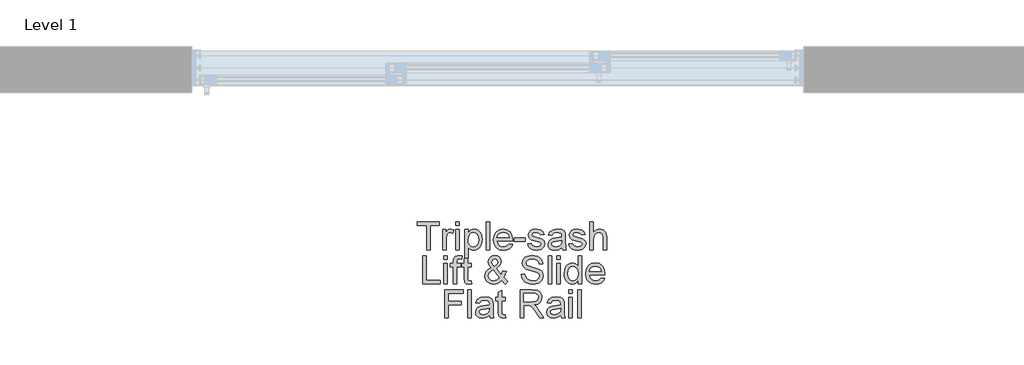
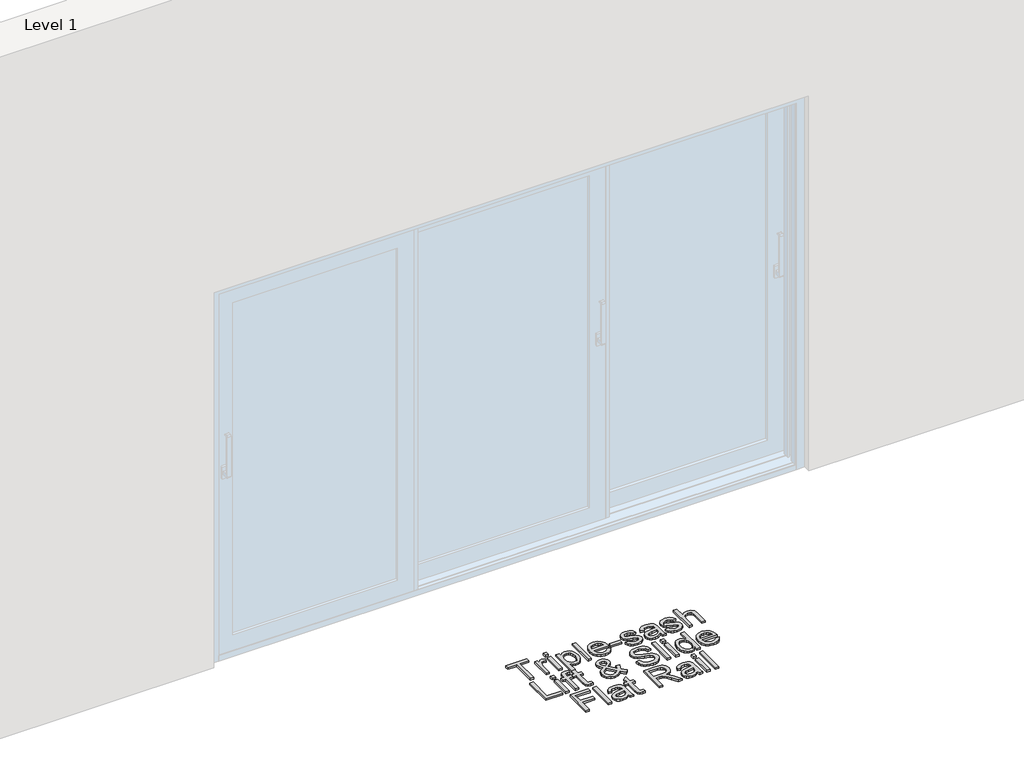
# One storey, part 8 of 11: 1 proxy.
"""IFC4 building model written with IfcOpenShell, lengths in millimetres."""

from ifc_helpers import new_model, si_unit, origin, origin_with_axes, place, context, project, spatial, polyline, outline, extrude, element, save

model = new_model("IFC4")

# Units and contexts
model_context = context("Model", 3, world=origin())
ifc_project = project(units=[si_unit("LENGTHUNIT", "METRE", prefix="MILLI")], contexts=[model_context])

# Site, building, storey
site = spatial("IfcSite", under=ifc_project)
building = spatial("IfcBuilding", under=site)
storey = spatial("IfcBuildingStorey", under=building, Name="Level 1", Elevation=0.0)

# Proxy
placement = place(None, origin())
element("IfcBuildingElementProxy", 1, Name="150mm Arial", ObjectType="150mm Arial", at=placement, inside=storey, context=model_context, shape_type="SweptSolid", body=[
    extrude(outline(polyline([(12044.3509661, -991.3626427), (12044.3509661, -859.5137356), (11994.907626, -859.5137356), (11994.907626, -840.6781775), (12112.6298644, -840.6781775), (12112.6298644, -859.5137356), (12063.1865243, -859.5137356), (12063.1865243, -991.3626427), (12044.3509661, -991.3626427)])), origin_with_axes(), (0.0, 0.0, 1.0), 10.0),
    extrude(outline(polyline([(12131.4654226, -991.3626427), (12131.4654226, -880.7037385), (12147.946536, -880.7037385), (12147.946536, -897.0744873), (12159.6451834, -881.9913255), (12171.4174073, -878.3492938), (12190.3265418, -884.1618293), (12184.0357597, -901.0476129), (12170.7920079, -897.1848519), (12160.1418241, -900.9004601), (12153.3544013, -911.2011559), (12150.3009807, -933.2004992), (12150.3009807, -991.3626427), (12131.4654226, -991.3626427)])), origin_with_axes(), (0.0, 0.0, 1.0), 10.0),
    extrude(outline(polyline([(12202.0987657, -859.5137356), (12202.0987657, -840.6781775), (12220.9343238, -840.6781775), (12220.9343238, -859.5137356), (12202.0987657, -859.5137356)])), origin_with_axes(), (0.0, 0.0, 1.0), 10.0),
    extrude(outline(polyline([(12202.0987657, -991.3626427), (12202.0987657, -880.7037385), (12220.9343238, -880.7037385), (12220.9343238, -991.3626427), (12202.0987657, -991.3626427)])), origin_with_axes(), (0.0, 0.0, 1.0), 10.0),
    extrude(outline(polyline([(12249.1876611, -1033.7426485), (12249.1876611, -880.7037385), (12268.0232192, -880.7037385), (12268.0232192, -899.1714147), (12281.0462418, -883.554824), (12298.6310012, -878.3492938), (12311.3689153, -880.1703096), (12322.5065427, -885.6333573), (12331.5748339, -894.4073429), (12338.1047393, -906.1611726), (12343.3654518, -935.187062), (12341.8801283, -951.2956949), (12337.4241576, -965.7028735), (12330.1400941, -977.6774325), (12320.170492, -986.4882062), (12308.5592165, -991.9098671), (12296.3501328, -993.7170875), (12279.9609899, -988.8794392), (12268.0232192, -976.6473629), (12268.0232192, -1033.7426485), (12249.1876611, -1033.7426485)]), holes=[polyline([(12268.0232192, -936.9161074), (12270.0603658, -953.801891), (12276.1718054, -965.610903), (12285.1895128, -972.5638727), (12295.9454626, -974.8815293), (12306.8761564, -972.4810993), (12316.1237901, -965.2798092), (12322.4283678, -953.0385358), (12324.5298937, -935.5181558), (12322.4789515, -918.7243427), (12316.3261252, -906.7497838), (12307.3222133, -899.5760849), (12296.7180148, -897.1848519), (12286.0724296, -899.7278362), (12276.7236284, -907.3567891), (12270.1983215, -919.8325872), (12268.0232192, -936.9161074)])]), origin_with_axes(), (0.0, 0.0, 1.0), 10.0),
    extrude(outline(polyline([(12364.5554547, -991.3626427), (12364.5554547, -840.6781775), (12383.3910129, -840.6781775), (12383.3910129, -991.3626427), (12364.5554547, -991.3626427)])), origin_with_axes(), (0.0, 0.0, 1.0), 10.0),
    extrude(outline(polyline([(12489.1202983, -958.4004159), (12507.5879745, -960.7548607), (12500.9339089, -974.6699972), (12490.3159148, -985.0718606), (12475.9731155, -991.5557807), (12458.1446343, -993.7170875), (12436.0441235, -989.9876837), (12419.0387782, -978.7994725), (12408.1954564, -960.8790209), (12404.5810158, -936.9528956), (12408.2322446, -912.2220285), (12419.185931, -893.7267612), (12435.96135, -882.1936606), (12457.0777765, -878.3492938), (12477.536614, -882.1844636), (12493.8843701, -893.689973), (12504.6035318, -912.1484521), (12508.1765857, -936.842531), (12508.0662211, -941.9193025), (12423.416574, -941.9193025), (12426.6769281, -956.01838), (12434.2506987, -966.3834552), (12445.1813925, -972.7570108), (12458.5125163, -974.8815293), (12476.9801925, -970.9451919), (12489.1202983, -958.4004159)]), holes=[polyline([(12423.416574, -923.0837444), (12489.3410275, -923.0837444), (12486.7934447, -913.1325364), (12481.7994466, -906.0140198), (12470.818169, -899.3921439), (12457.0042001, -897.1848519), (12444.3076728, -898.946087), (12433.8092403, -904.2297921), (12426.5113813, -912.4657503), (12423.416574, -923.0837444)])]), origin_with_axes(), (0.0, 0.0, 1.0), 10.0),
    extrude(outline(polyline([(12517.5943647, -946.6281921), (12517.5943647, -927.7926339), (12576.455484, -927.7926339), (12576.455484, -946.6281921), (12517.5943647, -946.6281921)])), origin_with_axes(), (0.0, 0.0, 1.0), 10.0),
    extrude(outline(polyline([(12590.5821526, -958.4004159), (12609.4177107, -956.0459711), (12612.3883578, -964.1025868), (12618.136514, -970.025487), (12638.1125064, -974.8815293), (12657.3159465, -970.4301572), (12663.5699404, -959.9823085), (12661.9972449, -955.1814485), (12657.2791583, -951.5210226), (12637.8917772, -946.1499455), (12609.5280753, -936.9345015), (12597.1488462, -926.1739531), (12592.9365973, -910.9804267), (12596.3211117, -896.9457286), (12605.5549498, -886.2219685), (12617.5295087, -880.6485562), (12633.7347106, -878.3492938), (12656.6537589, -882.0465078), (12671.2218859, -892.0528981), (12677.696609, -908.9570758), (12658.8610509, -911.3115205), (12651.7793225, -900.9188542), (12635.2062386, -897.1848519), (12617.1800208, -900.7533073), (12611.7721555, -909.0674404), (12614.0162357, -914.5488821), (12621.0427818, -918.7059486), (12637.2663778, -922.7158624), (12664.9127097, -931.5818185), (12677.7517913, -941.6249969), (12682.4054986, -957.9957457), (12676.9424509, -976.0219635), (12661.1787074, -989.1001684), (12637.854989, -993.7170875), (12618.863081, -991.4914014), (12605.0031268, -984.8143432), (12595.7508946, -973.7594892), (12590.5821526, -958.4004159)])), origin_with_axes(), (0.0, 0.0, 1.0), 10.0),
    extrude(outline(polyline([(12774.2288446, -977.2359741), (12755.9635035, -990.0014793), (12735.7851761, -993.7170875), (12720.0444252, -991.4822043), (12708.4331497, -984.777555), (12701.2732464, -974.5964208), (12698.886612, -961.9320831), (12702.4918555, -947.0328623), (12711.9648169, -936.2171316), (12725.1533864, -930.0367141), (12741.4505588, -927.2040227), (12774.11848, -920.7292996), (12774.2288446, -916.5354449), (12772.9320605, -908.1293413), (12769.0417084, -902.6295054), (12760.3412992, -898.5460153), (12748.2195875, -897.1848519), (12729.1633002, -900.8084896), (12720.0766149, -913.6659653), (12701.2410567, -911.3115205), (12709.3896429, -892.9174208), (12725.7971799, -882.1384783), (12750.6476087, -878.3492938), (12773.4746865, -881.6970199), (12786.3689504, -890.1031235), (12792.1446977, -902.8870228), (12793.0644027, -919.3681362), (12793.0644027, -942.8022193), (12794.0208959, -975.5253228), (12797.7732923, -991.3626427), (12778.9377341, -991.3626427), (12774.2288446, -977.2359741)]), holes=[polyline([(12774.2288446, -939.5648578), (12743.8417918, -945.3406051), (12727.6365899, -948.3940256), (12720.2973441, -953.3604326), (12717.7221701, -960.6077079), (12723.3323705, -970.7980392), (12739.7950898, -974.8815293), (12758.8513772, -970.3749749), (12771.1386358, -959.4672737), (12774.11848, -944.8991467), (12774.2288446, -939.5648578)])]), origin_with_axes(), (0.0, 0.0, 1.0), 10.0),
    extrude(outline(polyline([(12811.8999609, -958.4004159), (12830.735519, -956.0459711), (12833.7061661, -964.1025868), (12839.4543223, -970.025487), (12859.4303147, -974.8815293), (12878.6337548, -970.4301572), (12884.8877487, -959.9823085), (12883.3150532, -955.1814485), (12878.5969666, -951.5210226), (12859.2095855, -946.1499455), (12830.8458836, -936.9345015), (12818.4666545, -926.1739531), (12814.2544056, -910.9804267), (12817.63892, -896.9457286), (12826.8727581, -886.2219685), (12838.847317, -880.6485562), (12855.0525189, -878.3492938), (12877.9715672, -882.0465078), (12892.5396942, -892.0528981), (12899.0144173, -908.9570758), (12880.1788592, -911.3115205), (12873.0971308, -900.9188542), (12856.5240469, -897.1848519), (12838.4978291, -900.7533073), (12833.0899638, -909.0674404), (12835.334044, -914.5488821), (12842.3605901, -918.7059486), (12858.5841861, -922.7158624), (12886.230518, -931.5818185), (12899.0695996, -941.6249969), (12903.7233069, -957.9957457), (12898.2602592, -976.0219635), (12882.4965157, -989.1001684), (12859.1727973, -993.7170875), (12840.1808893, -991.4914014), (12826.3209351, -984.8143432), (12817.0687029, -973.7594892), (12811.8999609, -958.4004159)])), origin_with_axes(), (0.0, 0.0, 1.0), 10.0),
    extrude(outline(polyline([(12924.9133098, -991.3626427), (12924.9133098, -840.6781775), (12943.7488679, -840.6781775), (12943.7488679, -896.0812059), (12958.4365566, -882.7822718), (12976.5271537, -878.3492938), (12997.6803684, -883.186942), (13010.5194501, -896.5594525), (13014.382211, -921.3179108), (13014.382211, -991.3626427), (12995.5466529, -991.3626427), (12995.5466529, -923.2676854), (12994.0475337, -911.4770674), (12989.5501763, -903.4020576), (12982.302901, -898.7391533), (12972.5540282, -897.1848519), (12957.1213785, -901.3787067), (12946.8206826, -912.7462603), (12943.7488679, -932.5750999), (12943.7488679, -991.3626427), (12924.9133098, -991.3626427)])), origin_with_axes(), (0.0, 0.0, 1.0), 10.0),
    extrude(outline(polyline([(12023.1609632, -1174.3248694), (12023.1609632, -1023.6404042), (12041.9965214, -1023.6404042), (12041.9965214, -1155.4893113), (12117.338754, -1155.4893113), (12117.338754, -1174.3248694), (12023.1609632, -1174.3248694)])), origin_with_axes(), (0.0, 0.0, 1.0), 10.0),
    extrude(outline(polyline([(12136.1743121, -1042.4759624), (12136.1743121, -1023.6404042), (12155.0098703, -1023.6404042), (12155.0098703, -1042.4759624), (12136.1743121, -1042.4759624)])), origin_with_axes(), (0.0, 0.0, 1.0), 10.0),
    extrude(outline(polyline([(12136.1743121, -1174.3248694), (12136.1743121, -1063.6659653), (12155.0098703, -1063.6659653), (12155.0098703, -1174.3248694), (12136.1743121, -1174.3248694)])), origin_with_axes(), (0.0, 0.0, 1.0), 10.0),
    extrude(outline(polyline([(12187.9720971, -1174.3248694), (12187.9720971, -1082.5015235), (12171.4909837, -1082.5015235), (12171.4909837, -1063.6659653), (12187.9720971, -1063.6659653), (12187.9720971, -1052.5191408), (12189.9586598, -1036.8105797), (12199.5971681, -1025.5901788), (12218.5798791, -1021.2859595), (12235.7599682, -1023.3460986), (12233.0008533, -1041.0044344), (12222.1483344, -1040.1215176), (12210.2841401, -1043.2485146), (12206.8076552, -1054.9103738), (12206.8076552, -1063.6659653), (12227.9976581, -1063.6659653), (12227.9976581, -1082.5015235), (12206.8076552, -1082.5015235), (12206.8076552, -1174.3248694), (12187.9720971, -1174.3248694)])), origin_with_axes(), (0.0, 0.0, 1.0), 10.0),
    extrude(outline(polyline([(12284.5043326, -1158.6163083), (12286.8587774, -1174.8766924), (12272.7688969, -1176.6793142), (12256.9867593, -1173.5523173), (12249.1140847, -1165.3485488), (12246.8332163, -1143.9746048), (12246.8332163, -1082.5015235), (12232.7065477, -1082.5015235), (12232.7065477, -1063.6659653), (12246.8332163, -1063.6659653), (12246.8332163, -1036.7737915), (12265.6687744, -1025.7005434), (12265.6687744, -1063.6659653), (12284.5043326, -1063.6659653), (12284.5043326, -1082.5015235), (12265.6687744, -1082.5015235), (12265.6687744, -1143.4227819), (12266.6620558, -1153.1348665), (12269.8810233, -1156.5745632), (12276.3005641, -1157.8437561), (12284.5043326, -1158.6163083)])), origin_with_axes(), (0.0, 0.0, 1.0), 10.0),
    extrude(outline(polyline([(12448.6164906, -1155.7100405), (12428.6404983, -1171.4369958), (12405.2799916, -1176.6793142), (12384.4946589, -1172.7981592), (12368.4917921, -1161.154694), (12360.2420383, -1147.7545923), (12357.4921204, -1132.8645686), (12359.7040109, -1119.666802), (12366.3396824, -1107.8118047), (12377.3715437, -1097.3087738), (12392.7720038, -1088.1669062), (12379.6202224, -1069.1106188), (12376.3276786, -1054.9839502), (12378.9212467, -1042.2644302), (12386.7019508, -1031.3291379), (12398.4097953, -1023.7967541), (12412.7847843, -1021.2859595), (12426.4607975, -1023.6863895), (12437.3960898, -1030.8876795), (12444.5697887, -1041.4550898), (12446.9610217, -1053.9538806), (12445.1905896, -1064.4477145), (12439.8792933, -1074.1506022), (12418.634108, -1091.1835385), (12445.8941639, -1125.1390467), (12454.024356, -1104.2801376), (12472.8599141, -1108.3636277), (12459.5425859, -1139.3760799), (12482.2776932, -1162.1847636), (12468.1510246, -1176.6793142), (12448.6164906, -1155.7100405)]), holes=[polyline([(12409.1059644, -1079.3009501), (12424.5937964, -1067.6206967), (12428.1254635, -1056.5290546), (12423.4717563, -1044.7016484), (12411.8282911, -1040.1215176), (12399.9273086, -1044.6648602), (12395.1632367, -1055.7565024), (12396.7819175, -1062.6542898), (12401.6747481, -1070.3246294), (12409.1059644, -1079.3009501)]), polyline([(12435.9981382, -1142.1351949), (12402.3737238, -1100.1598592), (12381.6803616, -1115.9419968), (12376.3276786, -1130.362971), (12378.1578915, -1139.2473212), (12383.6485303, -1148.4627652), (12392.4960923, -1155.4985083), (12404.3970748, -1157.8437561), (12421.7059227, -1153.4659603), (12435.9981382, -1142.1351949)])]), origin_with_axes(), (0.0, 0.0, 1.0), 10.0),
    extrude(outline(polyline([(12555.265481, -1122.5270845), (12574.1010392, -1122.5270845), (12580.1710921, -1141.3810368), (12594.9967365, -1153.3004134), (12617.584691, -1157.8437561), (12637.2663778, -1154.4040594), (12649.9767007, -1144.9494921), (12654.1521613, -1132.3127456), (12651.0251644, -1120.5589159), (12638.222871, -1112.0056595), (12610.7972682, -1104.8135665), (12581.2747381, -1095.5245461), (12565.2534772, -1081.5082421), (12559.9743706, -1062.7830485), (12561.6068469, -1051.7511872), (12566.504276, -1041.4642869), (12574.5378991, -1032.7454836), (12585.5789574, -1026.4179133), (12613.5012009, -1021.2859595), (12643.2996425, -1026.6570366), (12654.7223784, -1033.2881095), (12663.1652702, -1042.4391742), (12668.5087562, -1053.5400134), (12670.6332747, -1066.0204101), (12651.7977166, -1066.0204101), (12648.3396258, -1054.7816151), (12641.1291387, -1046.6698171), (12629.8627526, -1041.7585925), (12614.2369649, -1040.1215176), (12598.2432951, -1041.7401984), (12587.2712146, -1046.5962407), (12580.9252502, -1053.7423485), (12578.8099287, -1062.2312255), (12580.3090479, -1069.4693038), (12584.8064053, -1075.2910363), (12615.56134, -1085.8124614), (12648.8914488, -1095.2670287), (12659.6290045, -1102.1004367), (12667.1200017, -1110.5341315), (12671.52079, -1120.4761424), (12672.9877195, -1131.834499), (12671.3000608, -1143.4457745), (12666.2370849, -1154.3672712), (12658.0057252, -1163.7666562), (12646.8129155, -1170.8115964), (12633.353033, -1175.2123848), (12618.320455, -1176.6793142), (12599.8665744, -1175.0974216), (12584.6776466, -1170.3517439), (12572.5789274, -1162.4238869), (12563.3956731, -1151.2954566), (12557.5003642, -1137.739005), (12555.265481, -1122.5270845)])), origin_with_axes(), (0.0, 0.0, 1.0), 10.0),
    extrude(outline(polyline([(12698.886612, -1174.3248694), (12698.886612, -1023.6404042), (12717.7221701, -1023.6404042), (12717.7221701, -1174.3248694), (12698.886612, -1174.3248694)])), origin_with_axes(), (0.0, 0.0, 1.0), 10.0),
    extrude(outline(polyline([(12745.9755073, -1042.4759624), (12745.9755073, -1023.6404042), (12764.8110655, -1023.6404042), (12764.8110655, -1042.4759624), (12745.9755073, -1042.4759624)])), origin_with_axes(), (0.0, 0.0, 1.0), 10.0),
    extrude(outline(polyline([(12745.9755073, -1174.3248694), (12745.9755073, -1063.6659653), (12764.8110655, -1063.6659653), (12764.8110655, -1174.3248694), (12745.9755073, -1174.3248694)])), origin_with_axes(), (0.0, 0.0, 1.0), 10.0),
    extrude(outline(polyline([(12861.343301, -1174.3248694), (12861.343301, -1156.5561691), (12848.8812984, -1171.6485279), (12831.655224, -1176.6793142), (12819.47833, -1174.8582983), (12808.3315055, -1169.3952507), (12798.8953323, -1160.6718489), (12791.8503921, -1149.0697705), (12787.4633993, -1135.058065), (12786.0010684, -1119.105782), (12791.3905396, -1089.1233994), (12798.1227802, -1077.2316139), (12807.5405592, -1068.4852194), (12818.9311055, -1063.1049453), (12831.5816476, -1061.3115205), (12848.9456778, -1066.4434744), (12861.343301, -1079.7791967), (12861.343301, -1023.6404042), (12880.1788592, -1023.6404042), (12880.1788592, -1174.3248694), (12861.343301, -1174.3248694)]), holes=[polyline([(12804.8366266, -1119.0322056), (12806.9611451, -1136.0697405), (12813.3347007, -1148.1868537), (12822.5961299, -1155.4295305), (12833.3842694, -1157.8437561), (12844.1678104, -1155.5398951), (12853.1947148, -1148.6283121), (12859.3061545, -1136.9802484), (12861.343301, -1120.4669454), (12859.2693663, -1102.4131364), (12853.047562, -1089.8959516), (12843.7907313, -1082.5842969), (12832.6117172, -1080.1470787), (12821.7132131, -1082.4877279), (12812.7828777, -1089.5096755), (12806.8231893, -1101.5716064), (12804.8366266, -1119.0322056)])]), origin_with_axes(), (0.0, 0.0, 1.0), 10.0),
    extrude(outline(polyline([(12985.9081446, -1141.3626427), (13004.3758208, -1143.7170875), (12997.7217552, -1157.6322239), (12987.1037611, -1168.0340873), (12972.7609618, -1174.5180075), (12954.9324806, -1176.6793142), (12932.8319697, -1172.9499105), (12915.8266245, -1161.7616993), (12904.9833027, -1143.8412476), (12901.3688621, -1119.9151224), (12905.0200909, -1095.1842552), (12915.9737773, -1076.6889879), (12932.7491963, -1065.1558874), (12953.8656228, -1061.3115205), (12974.3244603, -1065.1466903), (12990.6722164, -1076.6521997), (13001.3913781, -1095.1106788), (13004.9644319, -1119.8047578), (13004.8540673, -1124.8815293), (12920.2044203, -1124.8815293), (12923.4647744, -1138.9806068), (12931.038545, -1149.345682), (12941.9692388, -1155.7192375), (12955.3003626, -1157.8437561), (12973.7680388, -1153.9074187), (12985.9081446, -1141.3626427)]), holes=[polyline([(12920.2044203, -1106.0459711), (12986.1288738, -1106.0459711), (12983.581291, -1096.0947632), (12978.5872929, -1088.9762466), (12967.6060153, -1082.3543707), (12953.7920464, -1080.1470787), (12941.0955191, -1081.9083137), (12930.5970866, -1087.1920189), (12923.2992275, -1095.4279771), (12920.2044203, -1106.0459711)])]), origin_with_axes(), (0.0, 0.0, 1.0), 10.0),
    extrude(outline(polyline([(12140.8832017, -1357.2870962), (12140.8832017, -1206.602631), (12242.1243267, -1206.602631), (12242.1243267, -1225.4381891), (12159.7187598, -1225.4381891), (12159.7187598, -1270.1726398), (12230.3521029, -1270.1726398), (12230.3521029, -1289.0081979), (12159.7187598, -1289.0081979), (12159.7187598, -1357.2870962), (12140.8832017, -1357.2870962)])), origin_with_axes(), (0.0, 0.0, 1.0), 10.0),
    extrude(outline(polyline([(12265.6687744, -1357.2870962), (12265.6687744, -1206.602631), (12284.5043326, -1206.602631), (12284.5043326, -1357.2870962), (12265.6687744, -1357.2870962)])), origin_with_axes(), (0.0, 0.0, 1.0), 10.0),
    extrude(outline(polyline([(12383.3910129, -1343.1604276), (12365.1256718, -1355.9259328), (12344.9473444, -1359.641541), (12329.2065935, -1357.4066579), (12317.5953181, -1350.7020085), (12310.4354147, -1340.5208743), (12308.0487803, -1327.8565366), (12311.6540238, -1312.9573158), (12321.1269852, -1302.1415851), (12334.3155547, -1295.9611676), (12350.6127271, -1293.1284763), (12383.2806483, -1286.6537531), (12383.3910129, -1282.4598984), (12382.0942289, -1274.0537948), (12378.2038768, -1268.553959), (12369.5034676, -1264.4704688), (12357.3817558, -1263.1093055), (12338.3254685, -1266.7329431), (12329.2387832, -1279.5904188), (12310.403225, -1277.2359741), (12318.5518112, -1258.8418743), (12334.9593482, -1248.0629318), (12359.809777, -1244.2737473), (12382.6368548, -1247.6214735), (12395.5311187, -1256.027577), (12401.3068661, -1268.8114764), (12402.226571, -1285.2925898), (12402.226571, -1308.7266729), (12403.1830642, -1341.4497763), (12406.9354606, -1357.2870962), (12388.0999024, -1357.2870962), (12383.3910129, -1343.1604276)]), holes=[polyline([(12383.3910129, -1305.4893113), (12353.0039601, -1311.2650586), (12336.7987582, -1314.3184792), (12329.4595124, -1319.2848861), (12326.8843384, -1326.5321614), (12332.4945389, -1336.7224927), (12348.9572581, -1340.8059828), (12368.0135455, -1336.2994284), (12380.3008041, -1325.3917272), (12383.2806483, -1310.8236002), (12383.3910129, -1305.4893113)])]), origin_with_axes(), (0.0, 0.0, 1.0), 10.0),
    extrude(outline(polyline([(12468.1510246, -1341.578535), (12470.5054693, -1357.8389192), (12456.4155889, -1359.641541), (12440.6334513, -1356.514544), (12432.7607766, -1348.3107755), (12430.4799083, -1326.9368316), (12430.4799083, -1265.4637502), (12416.3532397, -1265.4637502), (12416.3532397, -1246.6281921), (12430.4799083, -1246.6281921), (12430.4799083, -1219.7360182), (12449.3154664, -1208.6627702), (12449.3154664, -1246.6281921), (12468.1510246, -1246.6281921), (12468.1510246, -1265.4637502), (12449.3154664, -1265.4637502), (12449.3154664, -1326.3850086), (12450.3087478, -1336.0970933), (12453.5277153, -1339.5367899), (12459.9472561, -1340.8059828), (12468.1510246, -1341.578535)])), origin_with_axes(), (0.0, 0.0, 1.0), 10.0),
    extrude(outline(polyline([(12548.2021467, -1357.2870962), (12548.2021467, -1206.602631), (12613.1333189, -1206.602631), (12643.2812484, -1210.667727), (12652.5610717, -1216.2963216), (12659.7623618, -1225.0519131), (12664.3838793, -1235.9090304), (12665.9243852, -1247.8422027), (12663.3722038, -1262.6862412), (12655.7156598, -1274.9918939), (12642.7248269, -1284.0141998), (12624.1697787, -1289.0081979), (12634.8751448, -1297.0648136), (12650.1422476, -1316.4521948), (12675.2685879, -1357.2870962), (12653.3796092, -1357.2870962), (12633.7714988, -1326.0539148), (12619.608042, -1305.3789467), (12609.656834, -1295.6116797), (12600.6989074, -1292.0248303), (12589.7728122, -1291.3626427), (12567.0377049, -1291.3626427), (12567.0377049, -1357.2870962), (12548.2021467, -1357.2870962)]), holes=[polyline([(12567.0377049, -1272.5270845), (12609.1969815, -1272.5270845), (12630.6996841, -1269.8599401), (12642.9133664, -1261.3250778), (12647.088827, -1248.5411784), (12645.0976657, -1239.3533256), (12639.1241818, -1231.9497005), (12628.8464786, -1227.066067), (12613.9426593, -1225.4381891), (12567.0377049, -1225.4381891), (12567.0377049, -1272.5270845)])]), origin_with_axes(), (0.0, 0.0, 1.0), 10.0),
    extrude(outline(polyline([(12767.1655103, -1343.1604276), (12748.9001692, -1355.9259328), (12728.7218418, -1359.641541), (12712.9810909, -1357.4066579), (12701.3698154, -1350.7020085), (12694.2099121, -1340.5208743), (12691.8232776, -1327.8565366), (12695.4285212, -1312.9573158), (12704.9014826, -1302.1415851), (12718.0900521, -1295.9611676), (12734.3872245, -1293.1284763), (12767.0551457, -1286.6537531), (12767.1655103, -1282.4598984), (12765.8687262, -1274.0537948), (12761.9783741, -1268.553959), (12753.2779649, -1264.4704688), (12741.1562532, -1263.1093055), (12722.0999659, -1266.7329431), (12713.0132806, -1279.5904188), (12694.1777224, -1277.2359741), (12702.3263086, -1258.8418743), (12718.7338456, -1248.0629318), (12743.5842744, -1244.2737473), (12766.4113522, -1247.6214735), (12779.3056161, -1256.027577), (12785.0813634, -1268.8114764), (12786.0010684, -1285.2925898), (12786.0010684, -1308.7266729), (12786.9575616, -1341.4497763), (12790.709958, -1357.2870962), (12771.8743998, -1357.2870962), (12767.1655103, -1343.1604276)]), holes=[polyline([(12767.1655103, -1305.4893113), (12736.7784575, -1311.2650586), (12720.5732556, -1314.3184792), (12713.2340098, -1319.2848861), (12710.6588358, -1326.5321614), (12716.2690362, -1336.7224927), (12732.7317555, -1340.8059828), (12751.7880429, -1336.2994284), (12764.0753015, -1325.3917272), (12767.0551457, -1310.8236002), (12767.1655103, -1305.4893113)])]), origin_with_axes(), (0.0, 0.0, 1.0), 10.0),
    extrude(outline(polyline([(12811.8999609, -1225.4381891), (12811.8999609, -1206.602631), (12830.735519, -1206.602631), (12830.735519, -1225.4381891), (12811.8999609, -1225.4381891)])), origin_with_axes(), (0.0, 0.0, 1.0), 10.0),
    extrude(outline(polyline([(12811.8999609, -1357.2870962), (12811.8999609, -1246.6281921), (12830.735519, -1246.6281921), (12830.735519, -1357.2870962), (12811.8999609, -1357.2870962)])), origin_with_axes(), (0.0, 0.0, 1.0), 10.0),
    extrude(outline(polyline([(12858.9888563, -1357.2870962), (12858.9888563, -1206.602631), (12877.8244144, -1206.602631), (12877.8244144, -1357.2870962), (12858.9888563, -1357.2870962)])), origin_with_axes(), (0.0, 0.0, 1.0), 10.0),
])

save(model, "model.ifc")
